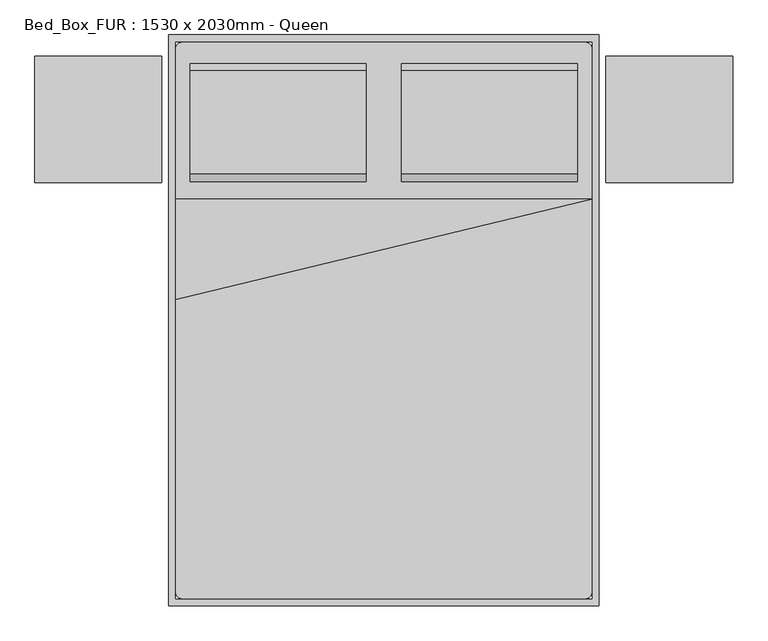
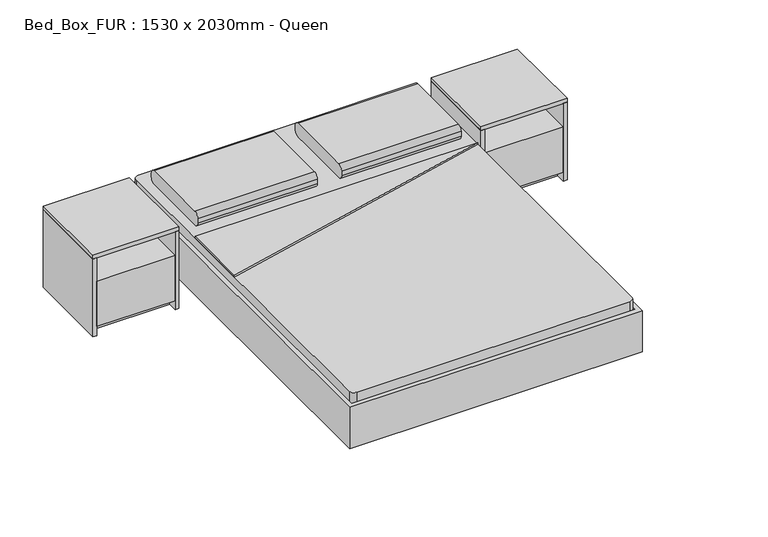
"""IFC4 building model written with IfcOpenShell, lengths in millimetres: furniture geometry, Bed_Box_FUR : 1530 x 2030mm - Queen."""

from ifc_helpers import new_model, si_unit, point, frame, frame_2d, origin, origin_with_axes, place, context, project, spatial, polyline, circle_curve, trimmed, segment, composite_curve, outline, extrude, source, transform, mapped, element, save
from ifc_brep_helpers import plane_surface, cylinder_surface, revolved_surface, advanced_brep


def bed_box_fur_1530_x_2030mm_queen_487b53cd(model_context):
    return source(origin(), model_context, "Body", "SolidModel", [
        extrude(outline(polyline([(1149.152459, 700.1704918), (1559.152459, 700.1704918), (1559.152459, 305.1704918), (1149.152459, 305.1704918), (1149.152459, 700.1704918)])), origin_with_axes(), (0.0, 0.0, 1.0), 50.0),
        extrude(outline(polyline([(1149.152459, 700.1704918), (1559.152459, 700.1704918), (1559.152459, 255.1704918), (1149.152459, 255.1704918), (1149.152459, 700.1704918)])), frame((0.0, 0.0, 50.0), z_axis=(0.0, 0.0, 1.0), x_axis=(1.0, 0.0, 0.0)), (0.0, 0.0, 1.0), 250.0),
        extrude(outline(polyline([(1149.152459, 700.1704918), (1149.152459, 705.1704918), (1559.152459, 705.1704918), (1559.152459, 700.1704918), (1149.152459, 700.1704918)])), origin_with_axes(), (0.0, 0.0, 1.0), 430.0),
        extrude(outline(polyline([(1129.152459, 705.1704918), (1149.152459, 705.1704918), (1149.152459, 255.1704918), (1129.152459, 255.1704918), (1129.152459, 705.1704918)])), origin_with_axes(), (0.0, 0.0, 1.0), 430.0),
        extrude(outline(polyline([(1559.152459, 705.1704918), (1579.152459, 705.1704918), (1579.152459, 255.1704918), (1559.152459, 255.1704918), (1559.152459, 705.1704918)])), origin_with_axes(), (0.0, 0.0, 1.0), 430.0),
        extrude(outline(polyline([(1129.152459, 705.1704918), (1579.152459, 705.1704918), (1579.152459, 255.1704918), (1129.152459, 255.1704918), (1129.152459, 705.1704918)])), frame((0.0, 0.0, 430.0), z_axis=(0.0, 0.0, 1.0), x_axis=(1.0, 0.0, 0.0)), (0.0, 0.0, 1.0), 20.0),
        extrude(outline(polyline([(-470.847541, 700.1704918), (-470.847541, 305.1704918), (-880.847541, 305.1704918), (-880.847541, 700.1704918), (-470.847541, 700.1704918)])), origin_with_axes(), (0.0, 0.0, 1.0), 50.0),
        extrude(outline(polyline([(-470.847541, 700.1704918), (-470.847541, 255.1704918), (-880.847541, 255.1704918), (-880.847541, 700.1704918), (-470.847541, 700.1704918)])), frame((0.0, 0.0, 50.0), z_axis=(0.0, 0.0, 1.0), x_axis=(1.0, 0.0, 0.0)), (0.0, 0.0, 1.0), 250.0),
        extrude(outline(polyline([(-470.847541, 700.1704918), (-880.847541, 700.1704918), (-880.847541, 705.1704918), (-470.847541, 705.1704918), (-470.847541, 700.1704918)])), origin_with_axes(), (0.0, 0.0, 1.0), 430.0),
        extrude(outline(polyline([(-450.847541, 705.1704918), (-450.847541, 255.1704918), (-470.847541, 255.1704918), (-470.847541, 705.1704918), (-450.847541, 705.1704918)])), origin_with_axes(), (0.0, 0.0, 1.0), 430.0),
        extrude(outline(polyline([(-880.847541, 705.1704918), (-880.847541, 255.1704918), (-900.847541, 255.1704918), (-900.847541, 705.1704918), (-880.847541, 705.1704918)])), origin_with_axes(), (0.0, 0.0, 1.0), 430.0),
        extrude(outline(polyline([(-450.847541, 705.1704918), (-450.847541, 255.1704918), (-900.847541, 255.1704918), (-900.847541, 705.1704918), (-450.847541, 705.1704918)])), frame((0.0, 0.0, 430.0), z_axis=(0.0, 0.0, 1.0), x_axis=(1.0, 0.0, 0.0)), (0.0, 0.0, 1.0), 20.0),
        extrude(outline(composite_curve([segment(polyline([(653.5704918, 406.4), (285.2704918, 406.4)]), True, "CONTINUOUS"), segment(trimmed(circle_curve(frame_2d((285.2704918, 431.8)), 25.4), [point((285.2704918, 406.4))], [point((259.8704918, 431.8))], False, "CARTESIAN"), True, "CONTINUOUS"), segment(polyline([(259.8704918, 431.8), (259.8704918, 457.2)]), True, "CONTINUOUS"), segment(trimmed(circle_curve(frame_2d((285.2704918, 457.2)), 25.4), [point((259.8704918, 457.2))], [point((285.2704918, 482.6))], False, "CARTESIAN"), True, "CONTINUOUS"), segment(polyline([(285.2704918, 482.6), (653.5704918, 482.6)]), True, "CONTINUOUS"), segment(trimmed(circle_curve(frame_2d((653.5704918, 457.2)), 25.4), [point((653.5704918, 482.6))], [point((678.9704918, 457.2))], False, "CARTESIAN"), True, "CONTINUOUS"), segment(polyline([(678.9704918, 457.2), (678.9704918, 431.8)]), True, "CONTINUOUS"), segment(trimmed(circle_curve(frame_2d((653.5704918, 431.8)), 25.4), [point((678.9704918, 431.8))], [point((653.5704918, 406.4))], False, "CARTESIAN"), True, "CONTINUOUS")], self_intersect=False)), frame((402.652459, 0.0, 0.0), z_axis=(1.0, 0.0, 0.0), x_axis=(0.0, 1.0, 0.0)), (0.0, 0.0, 1.0), 625.3),
        extrude(outline(composite_curve([segment(polyline([(653.5704918, 406.4), (285.2704918, 406.4)]), True, "CONTINUOUS"), segment(trimmed(circle_curve(frame_2d((285.2704918, 431.8)), 25.4), [point((285.2704918, 406.4))], [point((259.8704918, 431.8))], False, "CARTESIAN"), True, "CONTINUOUS"), segment(polyline([(259.8704918, 431.8), (259.8704918, 457.2)]), True, "CONTINUOUS"), segment(trimmed(circle_curve(frame_2d((285.2704918, 457.2)), 25.4), [point((259.8704918, 457.2))], [point((285.2704918, 482.6))], False, "CARTESIAN"), True, "CONTINUOUS"), segment(polyline([(285.2704918, 482.6), (653.5704918, 482.6)]), True, "CONTINUOUS"), segment(trimmed(circle_curve(frame_2d((653.5704918, 457.2)), 25.4), [point((653.5704918, 482.6))], [point((678.9704918, 457.2))], False, "CARTESIAN"), True, "CONTINUOUS"), segment(polyline([(678.9704918, 457.2), (678.9704918, 431.8)]), True, "CONTINUOUS"), segment(trimmed(circle_curve(frame_2d((653.5704918, 431.8)), 25.4), [point((678.9704918, 431.8))], [point((653.5704918, 406.4))], False, "CARTESIAN"), True, "CONTINUOUS")], self_intersect=False)), frame((-349.647541, 0.0, 0.0), z_axis=(1.0, 0.0, 0.0), x_axis=(0.0, 1.0, 0.0)), (0.0, 0.0, 1.0), 625.3),
        advanced_brep(
        [(-400.1231784, 526.5704918, 177.8), (-400.1231784, 450.3704918, 177.8), (-400.1231784, 450.3704918, 196.85), (-400.1231784, 526.5704918, 196.85), (-349.3231784, 526.5704918, 177.8), (-349.3231784, 450.3704918, 177.8), (-337.1869899, 450.3704918, 196.85), (-337.1869899, 526.5704918, 196.85), (-273.2523099, 526.5704918, 14.6654962), (-273.2523099, 450.3704918, 14.6654962), (-255.9871466, 450.3704918, 22.716374), (-255.9871466, 526.5704918, 22.716374), (-250.2320921, 450.3704918, 0.0), (-250.2320921, 526.5704918, 0.0), (-250.2320921, 450.3704918, 19.05), (-250.2320921, 526.5704918, 19.05), (-171.6195862, 526.5704918, 0.0), (-171.6195862, 450.3704918, 0.0), (-171.6195862, 450.3704918, 19.05), (-171.6195862, 526.5704918, 19.05), (-158.9195862, 450.3704918, 3.4029547), (-158.9195862, 526.5704918, 3.4029547), (-168.4445862, 450.3704918, 19.9007387), (-168.4445862, 526.5704918, 19.9007387), (-98.822541, 526.5704918, 38.1), (-98.822541, 450.3704918, 38.1), (-103.9269731, 450.3704918, 57.15), (-103.9269731, 526.5704918, 57.15), (777.4518216, 526.5704918, 38.1), (777.4518216, 450.3704918, 38.1), (782.5562537, 450.3704918, 57.15), (782.5562537, 526.5704918, 57.15), (837.5488669, 526.5704918, 3.4029547), (837.5488669, 450.3704918, 3.4029547), (847.0738669, 450.3704918, 19.9007387), (847.0738669, 526.5704918, 19.9007387), (850.2488669, 450.3704918, 0.0), (850.2488669, 526.5704918, 0.0), (850.2488669, 450.3704918, 19.05), (850.2488669, 526.5704918, 19.05), (928.8613728, 526.5704918, 0.0), (928.8613728, 450.3704918, 0.0), (928.8613728, 450.3704918, 19.05), (928.8613728, 526.5704918, 19.05), (951.8815906, 450.3704918, 14.6654962), (951.8815906, 526.5704918, 14.6654962), (934.6164272, 450.3704918, 22.716374), (934.6164272, 526.5704918, 22.716374), (1027.952459, 526.5704918, 177.8), (1027.952459, 450.3704918, 177.8), (1015.8162705, 450.3704918, 196.85), (1015.8162705, 526.5704918, 196.85), (1078.752459, 526.5704918, 177.8), (1078.752459, 526.5704918, 196.85), (1078.752459, 450.3704918, 196.85), (1078.752459, 450.3704918, 177.8)],
        [
            (0, 1),
            (1, 2),
            (2, 3),
            (3, 0),
            (0, 4),
            (4, 5),
            (5, 1),
            (5, 6),
            (6, 2),
            (6, 7),
            (7, 3),
            (7, 4),
            (4, 8),
            (8, 9),
            (9, 5),
            (9, 10),
            (10, 6),
            (10, 11),
            (11, 7),
            (11, 8),
            (12, 9, circle_curve(frame((-250.2320921, 450.3704918, 25.4), z_axis=(0.0, 1.0, 0.0), x_axis=(-0.906307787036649, 0.0, -0.4226182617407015)), 25.4)),
            (8, 13, circle_curve(frame((-250.2320921, 526.5704918, 25.4), z_axis=(0.0, -1.0, 0.0), x_axis=(-0.906307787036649, 0.0, -0.4226182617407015)), 25.4)),
            (13, 12),
            (14, 10, circle_curve(frame((-250.2320921, 450.3704918, 25.4), z_axis=(0.0, 1.0, 0.0), x_axis=(-0.906307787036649, 0.0, -0.4226182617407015)), 6.35)),
            (12, 14),
            (15, 11, circle_curve(frame((-250.2320921, 526.5704918, 25.4), z_axis=(0.0, 1.0, 0.0), x_axis=(-0.906307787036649, 0.0, -0.4226182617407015)), 6.35)),
            (14, 15),
            (15, 13),
            (13, 16),
            (16, 17),
            (17, 12),
            (17, 18),
            (18, 14),
            (18, 19),
            (19, 15),
            (19, 16),
            (20, 17, circle_curve(frame((-171.6195862, 450.3704918, 25.4), z_axis=(0.0, 1.0, 0.0), x_axis=(0.0, 0.0, -1.0)), 25.4)),
            (16, 21, circle_curve(frame((-171.6195862, 526.5704918, 25.4), z_axis=(0.0, -1.0, 0.0), x_axis=(0.0, 0.0, -1.0)), 25.4)),
            (21, 20),
            (22, 18, circle_curve(frame((-171.6195862, 450.3704918, 25.4), z_axis=(0.0, 1.0, 0.0), x_axis=(0.0, 0.0, -1.0)), 6.35)),
            (20, 22),
            (23, 19, circle_curve(frame((-171.6195862, 526.5704918, 25.4), z_axis=(0.0, 1.0, 0.0), x_axis=(0.0, 0.0, -1.0)), 6.35)),
            (22, 23),
            (23, 21),
            (21, 24),
            (24, 25),
            (25, 20),
            (25, 26),
            (26, 22),
            (26, 27),
            (27, 23),
            (27, 24),
            (24, 28),
            (28, 29),
            (29, 25),
            (29, 30),
            (30, 26),
            (30, 31),
            (31, 27),
            (31, 28),
            (28, 32),
            (32, 33),
            (33, 29),
            (33, 34),
            (34, 30),
            (34, 35),
            (35, 31),
            (35, 32),
            (36, 33, circle_curve(frame((850.2488669, 450.3704918, 25.4), z_axis=(0.0, 1.0, 0.0), x_axis=(-0.5000000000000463, 0.0, -0.8660254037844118)), 25.4)),
            (32, 37, circle_curve(frame((850.2488669, 526.5704918, 25.4), z_axis=(0.0, -1.0, 0.0), x_axis=(-0.5000000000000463, 0.0, -0.8660254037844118)), 25.4)),
            (37, 36),
            (38, 34, circle_curve(frame((850.2488669, 450.3704918, 25.4), z_axis=(0.0, 1.0, 0.0), x_axis=(-0.5000000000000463, 0.0, -0.8660254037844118)), 6.35)),
            (36, 38),
            (39, 35, circle_curve(frame((850.2488669, 526.5704918, 25.4), z_axis=(0.0, 1.0, 0.0), x_axis=(-0.5000000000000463, 0.0, -0.8660254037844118)), 6.35)),
            (38, 39),
            (39, 37),
            (37, 40),
            (40, 41),
            (41, 36),
            (41, 42),
            (42, 38),
            (42, 43),
            (43, 39),
            (43, 40),
            (44, 41, circle_curve(frame((928.8613728, 450.3704918, 25.4), z_axis=(0.0, 1.0, 0.0), x_axis=(0.0, 0.0, -1.0)), 25.4)),
            (40, 45, circle_curve(frame((928.8613728, 526.5704918, 25.4), z_axis=(0.0, -1.0, 0.0), x_axis=(0.0, 0.0, -1.0)), 25.4)),
            (45, 44),
            (46, 42, circle_curve(frame((928.8613728, 450.3704918, 25.4), z_axis=(0.0, 1.0, 0.0), x_axis=(0.0, 0.0, -1.0)), 6.35)),
            (44, 46),
            (47, 43, circle_curve(frame((928.8613728, 526.5704918, 25.4), z_axis=(0.0, 1.0, 0.0), x_axis=(0.0, 0.0, -1.0)), 6.35)),
            (46, 47),
            (47, 45),
            (45, 48),
            (48, 49),
            (49, 44),
            (49, 50),
            (50, 46),
            (50, 51),
            (51, 47),
            (51, 48),
            (52, 53),
            (53, 54),
            (54, 55),
            (55, 52),
            (48, 52),
            (55, 49),
            (54, 50),
            (53, 51),
        ],
        [
            plane_surface(frame((-400.1231784, 780.5704918, -152.9490627), z_axis=(-1.0, 0.0, 0.0), x_axis=(0.0, 1.0, 0.0))),
            plane_surface(frame((-400.1231784, 526.5704918, 177.8), z_axis=(0.0, 0.0, -1.0), x_axis=(1.0, 0.0, 0.0))),
            plane_surface(frame((-400.1231784, 450.3704918, 177.8), z_axis=(0.0, -1.0, 0.0), x_axis=(1.0, 0.0, 0.0))),
            plane_surface(frame((-400.1231784, 450.3704918, 196.85), z_axis=(0.0, 0.0, 1.0), x_axis=(1.0, 0.0, 0.0))),
            plane_surface(frame((-400.1231784, 526.5704918, 196.85), z_axis=(0.0, 1.0, 0.0), x_axis=(1.0, 0.0, 0.0))),
            plane_surface(frame((-349.3231784, 526.5704918, 177.8), z_axis=(-0.9063077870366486, 0.0, -0.42261826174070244), x_axis=(0.42261826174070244, 0.0, -0.9063077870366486))),
            plane_surface(frame((-349.3231784, 450.3704918, 177.8), z_axis=(0.0, -1.0000000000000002, 0.0), x_axis=(0.4226182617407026, 0.0, -0.9063077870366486))),
            plane_surface(frame((-337.1869899, 450.3704918, 196.85), z_axis=(0.9063077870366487, 0.0, 0.4226182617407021), x_axis=(0.4226182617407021, 0.0, -0.9063077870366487))),
            plane_surface(frame((-337.1869899, 526.5704918, 196.85), z_axis=(0.0, 1.0000000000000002, 0.0), x_axis=(0.4226182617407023, 0.0, -0.9063077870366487))),
            cylinder_surface(frame((-250.2320921, 780.5704918, 25.4), z_axis=(0.0, -1.0, 0.0), x_axis=(-0.906307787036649, 0.0, -0.4226182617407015)), 25.4),
            plane_surface(frame((-250.2320921, 450.3704918, 25.4), z_axis=(0.0, -1.0, 0.0), x_axis=(-0.906307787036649, 0.0, -0.4226182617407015))),
            revolved_surface(polyline([(-255.9871465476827, 450.3704918, 22.716374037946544), (-255.9871465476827, 526.5704918, 22.716374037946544)]), (-250.2320921, 780.5704918, 25.4), (0.0, -1.0, 0.0)),
            plane_surface(frame((-250.2320921, 526.5704918, 25.4), z_axis=(0.0, 1.0, 0.0), x_axis=(-0.906307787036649, 0.0, -0.4226182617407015))),
            plane_surface(frame((-250.2320921, 526.5704918, 0.0), z_axis=(0.0, 0.0, -1.0), x_axis=(1.0, 0.0, 0.0))),
            plane_surface(frame((-250.2320921, 450.3704918, 0.0), z_axis=(0.0, -1.0, 0.0), x_axis=(1.0, 0.0, 0.0))),
            plane_surface(frame((-250.2320921, 450.3704918, 19.05), z_axis=(0.0, 0.0, 1.0), x_axis=(1.0, 0.0, 0.0))),
            plane_surface(frame((-250.2320921, 526.5704918, 19.05), z_axis=(0.0, 1.0, 0.0), x_axis=(1.0, 0.0, 0.0))),
            cylinder_surface(frame((-171.6195862, 780.5704918, 25.4), z_axis=(0.0, -1.0, 0.0), x_axis=(0.0, 0.0, -1.0)), 25.4),
            plane_surface(frame((-171.6195862, 450.3704918, 25.4), z_axis=(0.0, -1.0, 0.0), x_axis=(0.0, 0.0, -1.0))),
            revolved_surface(polyline([(-171.6195862, 450.3704918, 19.049999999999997), (-171.6195862, 526.5704918, 19.049999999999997)]), (-171.6195862, 780.5704918, 25.4), (0.0, -1.0, 0.0)),
            plane_surface(frame((-171.6195862, 526.5704918, 25.4), z_axis=(0.0, 1.0, 0.0), x_axis=(0.0, 0.0, -1.0))),
            plane_surface(frame((-158.9195862, 526.5704918, 3.4029547), z_axis=(0.49999999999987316, 0.0, -0.866025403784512), x_axis=(0.866025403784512, 0.0, 0.49999999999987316))),
            plane_surface(frame((-158.9195862, 450.3704918, 3.4029547), z_axis=(0.0, -1.0, 0.0), x_axis=(0.8660254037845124, 0.0, 0.49999999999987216))),
            plane_surface(frame((-168.4445862, 450.3704918, 19.9007387), z_axis=(-0.4999999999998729, 0.0, 0.8660254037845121), x_axis=(0.8660254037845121, 0.0, 0.4999999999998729))),
            plane_surface(frame((-168.4445862, 526.5704918, 19.9007387), z_axis=(0.0, 1.0, 0.0), x_axis=(0.8660254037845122, 0.0, 0.49999999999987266))),
            plane_surface(frame((-98.822541, 526.5704918, 38.1), z_axis=(0.0, 0.0, -1.0), x_axis=(1.0, 0.0, 0.0))),
            plane_surface(frame((-98.822541, 450.3704918, 38.1), z_axis=(0.0, -1.0, 0.0), x_axis=(1.0, 0.0, 0.0))),
            plane_surface(frame((-103.9269731, 450.3704918, 57.15), z_axis=(0.0, 0.0, 1.0), x_axis=(1.0, 0.0, 0.0))),
            plane_surface(frame((-103.9269731, 526.5704918, 57.15), z_axis=(0.0, 1.0, 0.0), x_axis=(1.0, 0.0, 0.0))),
            plane_surface(frame((777.4518216, 526.5704918, 38.1), z_axis=(-0.5000000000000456, 0.0, -0.8660254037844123), x_axis=(0.8660254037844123, 0.0, -0.5000000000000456))),
            plane_surface(frame((777.4518216, 450.3704918, 38.1), z_axis=(0.0, -1.0, 0.0), x_axis=(0.8660254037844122, 0.0, -0.500000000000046))),
            plane_surface(frame((782.5562537, 450.3704918, 57.15), z_axis=(0.5000000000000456, 0.0, 0.8660254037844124), x_axis=(0.8660254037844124, 0.0, -0.5000000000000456))),
            plane_surface(frame((782.5562537, 526.5704918, 57.15), z_axis=(0.0, 1.0, 0.0), x_axis=(0.8660254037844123, 0.0, -0.5000000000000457))),
            cylinder_surface(frame((850.2488669, 780.5704918, 25.4), z_axis=(0.0, -1.0, 0.0), x_axis=(-0.5000000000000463, 0.0, -0.8660254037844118)), 25.4),
            plane_surface(frame((850.2488669, 450.3704918, 25.4), z_axis=(0.0, -1.0000000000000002, 0.0), x_axis=(-0.5000000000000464, 0.0, -0.866025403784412))),
            revolved_surface(polyline([(847.0738668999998, 450.3704918, 19.90073868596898), (847.0738668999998, 526.5704918, 19.90073868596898)]), (850.2488669, 780.5704918, 25.4), (0.0, -1.0, 0.0)),
            plane_surface(frame((850.2488669, 526.5704918, 25.4), z_axis=(0.0, 1.0000000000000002, 0.0), x_axis=(-0.5000000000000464, 0.0, -0.866025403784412))),
            plane_surface(frame((850.2488669, 526.5704918, 0.0), z_axis=(0.0, 0.0, -1.0), x_axis=(1.0, 0.0, 0.0))),
            plane_surface(frame((850.2488669, 450.3704918, 0.0), z_axis=(0.0, -1.0, 0.0), x_axis=(1.0, 0.0, 0.0))),
            plane_surface(frame((850.2488669, 450.3704918, 19.05), z_axis=(0.0, 0.0, 1.0), x_axis=(1.0, 0.0, 0.0))),
            plane_surface(frame((850.2488669, 526.5704918, 19.05), z_axis=(0.0, 1.0, 0.0), x_axis=(1.0, 0.0, 0.0))),
            cylinder_surface(frame((928.8613728, 780.5704918, 25.4), z_axis=(0.0, -1.0, 0.0), x_axis=(0.0, 0.0, -1.0)), 25.4),
            plane_surface(frame((928.8613728, 450.3704918, 25.4), z_axis=(0.0, -1.0, 0.0), x_axis=(0.0, 0.0, -1.0))),
            revolved_surface(polyline([(928.8613728, 450.3704918, 19.049999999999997), (928.8613728, 526.5704918, 19.049999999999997)]), (928.8613728, 780.5704918, 25.4), (0.0, -1.0, 0.0)),
            plane_surface(frame((928.8613728, 526.5704918, 25.4), z_axis=(0.0, 1.0, 0.0), x_axis=(0.0, 0.0, -1.0))),
            plane_surface(frame((951.8815906, 526.5704918, 14.6654962), z_axis=(0.9063077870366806, 0.0, -0.42261826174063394), x_axis=(0.42261826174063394, 0.0, 0.9063077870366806))),
            plane_surface(frame((951.8815906, 450.3704918, 14.6654962), z_axis=(0.0, -1.0, 0.0), x_axis=(0.42261826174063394, 0.0, 0.9063077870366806))),
            plane_surface(frame((934.6164272, 450.3704918, 22.716374), z_axis=(-0.9063077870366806, 0.0, 0.422618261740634), x_axis=(0.422618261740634, 0.0, 0.9063077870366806))),
            plane_surface(frame((934.6164272, 526.5704918, 22.716374), z_axis=(0.0, 1.0000000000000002, 0.0), x_axis=(0.42261826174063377, 0.0, 0.9063077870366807))),
            plane_surface(frame((1078.752459, 780.5704918, -152.9490627), z_axis=(1.0, 0.0, 0.0), x_axis=(0.0, 1.0, 0.0))),
            plane_surface(frame((1027.952459, 526.5704918, 177.8), z_axis=(0.0, 0.0, -1.0), x_axis=(1.0, 0.0, 0.0))),
            plane_surface(frame((1027.952459, 450.3704918, 177.8), z_axis=(0.0, -1.0, 0.0), x_axis=(1.0, 0.0, 0.0))),
            plane_surface(frame((1015.8162705, 450.3704918, 196.85), z_axis=(0.0, 0.0, 1.0), x_axis=(1.0, 0.0, 0.0))),
            plane_surface(frame((1015.8162705, 526.5704918, 196.85), z_axis=(0.0, 1.0, 0.0), x_axis=(1.0, 0.0, 0.0))),
        ],
        [
            (0, [[1, 2, 3, 4]]),
            (1, [[-1, 5, 6, 7]]),
            (2, [[-2, -7, 8, 9]]),
            (3, [[-3, -9, 10, 11]]),
            (4, [[-4, -11, 12, -5]]),
            (5, [[-6, 13, 14, 15]]),
            (6, [[-8, -15, 16, 17]]),
            (7, [[-10, -17, 18, 19]]),
            (8, [[-12, -19, 20, -13]]),
            (9, [[21, -14, 22, 23]]),
            (10, [[24, -16, -21, 25]]),
            (11, [[26, -18, -24, 27]]),
            (12, [[-22, -20, -26, 28]]),
            (13, [[-23, 29, 30, 31]]),
            (14, [[-25, -31, 32, 33]]),
            (15, [[-27, -33, 34, 35]]),
            (16, [[-28, -35, 36, -29]]),
            (17, [[37, -30, 38, 39]]),
            (18, [[40, -32, -37, 41]]),
            (19, [[42, -34, -40, 43]]),
            (20, [[-38, -36, -42, 44]]),
            (21, [[-39, 45, 46, 47]]),
            (22, [[-41, -47, 48, 49]]),
            (23, [[-43, -49, 50, 51]]),
            (24, [[-44, -51, 52, -45]]),
            (25, [[-46, 53, 54, 55]]),
            (26, [[-48, -55, 56, 57]]),
            (27, [[-50, -57, 58, 59]]),
            (28, [[-52, -59, 60, -53]]),
            (29, [[-54, 61, 62, 63]]),
            (30, [[-56, -63, 64, 65]]),
            (31, [[-58, -65, 66, 67]]),
            (32, [[-60, -67, 68, -61]]),
            (33, [[69, -62, 70, 71]]),
            (34, [[72, -64, -69, 73]]),
            (35, [[74, -66, -72, 75]]),
            (36, [[-70, -68, -74, 76]]),
            (37, [[-71, 77, 78, 79]]),
            (38, [[-73, -79, 80, 81]]),
            (39, [[-75, -81, 82, 83]]),
            (40, [[-76, -83, 84, -77]]),
            (41, [[85, -78, 86, 87]]),
            (42, [[88, -80, -85, 89]]),
            (43, [[90, -82, -88, 91]]),
            (44, [[-86, -84, -90, 92]]),
            (45, [[-87, 93, 94, 95]]),
            (46, [[-89, -95, 96, 97]]),
            (47, [[-91, -97, 98, 99]]),
            (48, [[-92, -99, 100, -93]]),
            (49, [[101, 102, 103, 104]]),
            (50, [[-94, 105, -104, 106]]),
            (51, [[-96, -106, -103, 107]]),
            (52, [[-98, -107, -102, 108]]),
            (53, [[-100, -108, -101, -105]]),
        ],
    ),
        extrude(outline(composite_curve([segment(polyline([(-375.047541, 755.1704918), (1053.352459, 755.1704918)]), True, "CONTINUOUS"), segment(trimmed(circle_curve(frame_2d((1053.352459, 729.7704918)), 25.4), [point((1053.352459, 755.1704918))], [point((1078.752459, 729.7704918))], False, "CARTESIAN"), True, "CONTINUOUS"), segment(polyline([(1078.752459, 729.7704918), (1078.752459, -1198.6295082)]), True, "CONTINUOUS"), segment(trimmed(circle_curve(frame_2d((1053.352459, -1198.6295082)), 25.4), [point((1078.752459, -1198.6295082))], [point((1053.352459, -1224.0295082))], False, "CARTESIAN"), True, "CONTINUOUS"), segment(polyline([(1053.352459, -1224.0295082), (-375.047541, -1224.0295082)]), True, "CONTINUOUS"), segment(trimmed(circle_curve(frame_2d((-375.047541, -1198.6295082)), 25.4), [point((-375.047541, -1224.0295082))], [point((-400.447541, -1198.6295082))], False, "CARTESIAN"), True, "CONTINUOUS"), segment(polyline([(-400.447541, -1198.6295082), (-400.447541, 729.7704918)]), True, "CONTINUOUS"), segment(trimmed(circle_curve(frame_2d((-375.047541, 729.7704918)), 25.4), [point((-400.447541, 729.7704918))], [point((-375.047541, 755.1704918))], False, "CARTESIAN"), True, "CONTINUOUS")], self_intersect=False)), frame((0.0, 0.0, 203.2), z_axis=(0.0, 0.0, 1.0), x_axis=(1.0, 0.0, 0.0)), (0.0, 0.0, 1.0), 203.2),
        advanced_brep(
        [(-400.447541, -944.6295082, 196.85), (-400.447541, -944.6295082, 177.8), (-400.447541, -1020.8295082, 177.8), (-400.447541, -1020.8295082, 196.85), (-337.5113525, -944.6295082, 196.85), (-349.647541, -944.6295082, 177.8), (-349.647541, -1020.8295082, 177.8), (-337.5113525, -1020.8295082, 196.85), (-256.3115092, -944.6295082, 22.716374), (-273.5766725, -944.6295082, 14.6654962), (-273.5766725, -1020.8295082, 14.6654962), (-256.3115092, -1020.8295082, 22.716374), (-250.5564547, -944.6295082, 0.0), (-250.5564547, -944.6295082, 19.05), (-250.5564547, -1020.8295082, 0.0), (-250.5564547, -1020.8295082, 19.05), (-171.9439489, -944.6295082, 19.05), (-171.9439489, -944.6295082, 0.0), (-171.9439489, -1020.8295082, 0.0), (-171.9439489, -1020.8295082, 19.05), (-159.2439489, -944.6295082, 3.4029547), (-168.7689489, -944.6295082, 19.9007387), (-159.2439489, -1020.8295082, 3.4029547), (-168.7689489, -1020.8295082, 19.9007387), (-104.2513357, -944.6295082, 57.15), (-99.1469036, -944.6295082, 38.1), (-99.1469036, -1020.8295082, 38.1), (-104.2513357, -1020.8295082, 57.15), (782.5562537, -944.6295082, 57.15), (777.4518216, -944.6295082, 38.1), (777.4518216, -1020.8295082, 38.1), (782.5562537, -1020.8295082, 57.15), (847.0738669, -944.6295082, 19.9007387), (837.5488669, -944.6295082, 3.4029547), (837.5488669, -1020.8295082, 3.4029547), (847.0738669, -1020.8295082, 19.9007387), (850.2488669, -944.6295082, 0.0), (850.2488669, -944.6295082, 19.05), (850.2488669, -1020.8295082, 0.0), (850.2488669, -1020.8295082, 19.05), (928.8613728, -944.6295082, 19.05), (928.8613728, -944.6295082, 0.0), (928.8613728, -1020.8295082, 0.0), (928.8613728, -1020.8295082, 19.05), (951.8815906, -944.6295082, 14.6654962), (934.6164272, -944.6295082, 22.716374), (951.8815906, -1020.8295082, 14.6654962), (934.6164272, -1020.8295082, 22.716374), (1015.8162705, -944.6295082, 196.85), (1027.952459, -944.6295082, 177.8), (1027.952459, -1020.8295082, 177.8), (1015.8162705, -1020.8295082, 196.85), (1078.752459, -944.6295082, 196.85), (1078.752459, -1020.8295082, 196.85), (1078.752459, -1020.8295082, 177.8), (1078.752459, -944.6295082, 177.8)],
        [
            (0, 1),
            (1, 2),
            (2, 3),
            (3, 0),
            (0, 4),
            (4, 5),
            (5, 1),
            (5, 6),
            (6, 2),
            (6, 7),
            (7, 3),
            (7, 4),
            (4, 8),
            (8, 9),
            (9, 5),
            (9, 10),
            (10, 6),
            (10, 11),
            (11, 7),
            (11, 8),
            (12, 9, circle_curve(frame((-250.5564547, -944.6295082, 25.4), z_axis=(0.0, 1.0, 0.0), x_axis=(-0.9063077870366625, 0.0, -0.4226182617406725)), 25.4)),
            (8, 13, circle_curve(frame((-250.5564547, -944.6295082, 25.4), z_axis=(0.0, -1.0, 0.0), x_axis=(-0.9063077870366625, 0.0, -0.4226182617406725)), 6.35)),
            (13, 12),
            (14, 10, circle_curve(frame((-250.5564547, -1020.8295082, 25.4), z_axis=(0.0, 1.0, 0.0), x_axis=(-0.9063077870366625, 0.0, -0.4226182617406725)), 25.4)),
            (12, 14),
            (15, 11, circle_curve(frame((-250.5564547, -1020.8295082, 25.4), z_axis=(0.0, 1.0, 0.0), x_axis=(-0.9063077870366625, 0.0, -0.4226182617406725)), 6.35)),
            (14, 15),
            (15, 13),
            (13, 16),
            (16, 17),
            (17, 12),
            (17, 18),
            (18, 14),
            (18, 19),
            (19, 15),
            (19, 16),
            (20, 17, circle_curve(frame((-171.9439489, -944.6295082, 25.4), z_axis=(0.0, 1.0, 0.0), x_axis=(0.0, 0.0, -1.0)), 25.4)),
            (16, 21, circle_curve(frame((-171.9439489, -944.6295082, 25.4), z_axis=(0.0, -1.0, 0.0), x_axis=(0.0, 0.0, -1.0)), 6.35)),
            (21, 20),
            (22, 18, circle_curve(frame((-171.9439489, -1020.8295082, 25.4), z_axis=(0.0, 1.0, 0.0), x_axis=(0.0, 0.0, -1.0)), 25.4)),
            (20, 22),
            (23, 19, circle_curve(frame((-171.9439489, -1020.8295082, 25.4), z_axis=(0.0, 1.0, 0.0), x_axis=(0.0, 0.0, -1.0)), 6.35)),
            (22, 23),
            (23, 21),
            (21, 24),
            (24, 25),
            (25, 20),
            (25, 26),
            (26, 22),
            (26, 27),
            (27, 23),
            (27, 24),
            (24, 28),
            (28, 29),
            (29, 25),
            (29, 30),
            (30, 26),
            (30, 31),
            (31, 27),
            (31, 28),
            (28, 32),
            (32, 33),
            (33, 29),
            (33, 34),
            (34, 30),
            (34, 35),
            (35, 31),
            (35, 32),
            (36, 33, circle_curve(frame((850.2488669, -944.6295082, 25.4), z_axis=(0.0, 1.0, 0.0), x_axis=(-0.5000000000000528, 0.0, -0.8660254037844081)), 25.4)),
            (32, 37, circle_curve(frame((850.2488669, -944.6295082, 25.4), z_axis=(0.0, -1.0, 0.0), x_axis=(-0.5000000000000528, 0.0, -0.8660254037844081)), 6.35)),
            (37, 36),
            (38, 34, circle_curve(frame((850.2488669, -1020.8295082, 25.4), z_axis=(0.0, 1.0, 0.0), x_axis=(-0.5000000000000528, 0.0, -0.8660254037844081)), 25.4)),
            (36, 38),
            (39, 35, circle_curve(frame((850.2488669, -1020.8295082, 25.4), z_axis=(0.0, 1.0, 0.0), x_axis=(-0.5000000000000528, 0.0, -0.8660254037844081)), 6.35)),
            (38, 39),
            (39, 37),
            (37, 40),
            (40, 41),
            (41, 36),
            (41, 42),
            (42, 38),
            (42, 43),
            (43, 39),
            (43, 40),
            (44, 41, circle_curve(frame((928.8613728, -944.6295082, 25.4), z_axis=(0.0, 1.0, 0.0), x_axis=(0.0, 0.0, -1.0)), 25.4)),
            (40, 45, circle_curve(frame((928.8613728, -944.6295082, 25.4), z_axis=(0.0, -1.0, 0.0), x_axis=(0.0, 0.0, -1.0)), 6.35)),
            (45, 44),
            (46, 42, circle_curve(frame((928.8613728, -1020.8295082, 25.4), z_axis=(0.0, 1.0, 0.0), x_axis=(0.0, 0.0, -1.0)), 25.4)),
            (44, 46),
            (47, 43, circle_curve(frame((928.8613728, -1020.8295082, 25.4), z_axis=(0.0, 1.0, 0.0), x_axis=(0.0, 0.0, -1.0)), 6.35)),
            (46, 47),
            (47, 45),
            (45, 48),
            (48, 49),
            (49, 44),
            (49, 50),
            (50, 46),
            (50, 51),
            (51, 47),
            (51, 48),
            (52, 53),
            (53, 54),
            (54, 55),
            (55, 52),
            (48, 52),
            (55, 49),
            (54, 50),
            (53, 51),
        ],
        [
            plane_surface(frame((-400.447541, -1249.4295082, -127.5947323), z_axis=(-1.0, 0.0, 0.0), x_axis=(0.0, 1.0, 0.0))),
            plane_surface(frame((-400.447541, -944.6295082, 196.85), z_axis=(0.0, 1.0, 0.0), x_axis=(1.0, 0.0, 0.0))),
            plane_surface(frame((-400.447541, -944.6295082, 177.8), z_axis=(0.0, 0.0, -1.0), x_axis=(1.0, 0.0, 0.0))),
            plane_surface(frame((-400.447541, -1020.8295082, 177.8), z_axis=(0.0, -1.0, 0.0), x_axis=(1.0, 0.0, 0.0))),
            plane_surface(frame((-400.447541, -1020.8295082, 196.85), z_axis=(0.0, 0.0, 1.0), x_axis=(1.0, 0.0, 0.0))),
            plane_surface(frame((-337.5113525, -944.6295082, 196.85), z_axis=(0.0, 1.0, 0.0), x_axis=(0.42261826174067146, 0.0, -0.906307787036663))),
            plane_surface(frame((-349.647541, -944.6295082, 177.8), z_axis=(-0.906307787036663, 0.0, -0.4226182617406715), x_axis=(0.4226182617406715, 0.0, -0.906307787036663))),
            plane_surface(frame((-349.647541, -1020.8295082, 177.8), z_axis=(0.0, -1.0, 0.0), x_axis=(0.4226182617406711, 0.0, -0.9063077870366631))),
            plane_surface(frame((-337.5113525, -1020.8295082, 196.85), z_axis=(0.906307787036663, 0.0, 0.4226182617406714), x_axis=(0.4226182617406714, 0.0, -0.906307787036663))),
            plane_surface(frame((-250.5564547, -944.6295082, 25.4), z_axis=(0.0, 1.0, 0.0), x_axis=(-0.9063077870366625, 0.0, -0.4226182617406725))),
            cylinder_surface(frame((-250.5564547, -1249.4295082, 25.4), z_axis=(0.0, -1.0, 0.0), x_axis=(-0.9063077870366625, 0.0, -0.4226182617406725)), 25.4),
            plane_surface(frame((-250.5564547, -1020.8295082, 25.4), z_axis=(0.0, -1.0, 0.0), x_axis=(-0.9063077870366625, 0.0, -0.4226182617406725))),
            revolved_surface(polyline([(-256.3115091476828, -1020.8295082, 22.71637403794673), (-256.3115091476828, -944.6295082, 22.71637403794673)]), (-250.5564547, -1249.4295082, 25.4), (0.0, -1.0, 0.0)),
            plane_surface(frame((-250.5564547, -944.6295082, 19.05), z_axis=(0.0, 1.0, 0.0), x_axis=(1.0, 0.0, 0.0))),
            plane_surface(frame((-250.5564547, -944.6295082, 0.0), z_axis=(0.0, 0.0, -1.0), x_axis=(1.0, 0.0, 0.0))),
            plane_surface(frame((-250.5564547, -1020.8295082, 0.0), z_axis=(0.0, -1.0, 0.0), x_axis=(1.0, 0.0, 0.0))),
            plane_surface(frame((-250.5564547, -1020.8295082, 19.05), z_axis=(0.0, 0.0, 1.0), x_axis=(1.0, 0.0, 0.0))),
            plane_surface(frame((-171.9439489, -944.6295082, 25.4), z_axis=(0.0, 1.0, 0.0), x_axis=(0.0, 0.0, -1.0))),
            cylinder_surface(frame((-171.9439489, -1249.4295082, 25.4), z_axis=(0.0, -1.0, 0.0), x_axis=(0.0, 0.0, -1.0)), 25.4),
            plane_surface(frame((-171.9439489, -1020.8295082, 25.4), z_axis=(0.0, -1.0, 0.0), x_axis=(0.0, 0.0, -1.0))),
            revolved_surface(polyline([(-171.9439489, -1020.8295082, 19.049999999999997), (-171.9439489, -944.6295082, 19.049999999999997)]), (-171.9439489, -1249.4295082, 25.4), (0.0, -1.0, 0.0)),
            plane_surface(frame((-168.7689489, -944.6295082, 19.9007387), z_axis=(0.0, 1.0, 0.0), x_axis=(0.8660254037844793, 0.0, 0.4999999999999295))),
            plane_surface(frame((-159.2439489, -944.6295082, 3.4029547), z_axis=(0.4999999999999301, 0.0, -0.8660254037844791), x_axis=(0.8660254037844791, 0.0, 0.4999999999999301))),
            plane_surface(frame((-159.2439489, -1020.8295082, 3.4029547), z_axis=(0.0, -1.0, 0.0), x_axis=(0.8660254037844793, 0.0, 0.49999999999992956))),
            plane_surface(frame((-168.7689489, -1020.8295082, 19.9007387), z_axis=(-0.4999999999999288, 0.0, 0.8660254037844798), x_axis=(0.8660254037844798, 0.0, 0.4999999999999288))),
            plane_surface(frame((-104.2513357, -944.6295082, 57.15), z_axis=(0.0, 1.0, 0.0), x_axis=(1.0, 0.0, 0.0))),
            plane_surface(frame((-99.1469036, -944.6295082, 38.1), z_axis=(0.0, 0.0, -1.0), x_axis=(1.0, 0.0, 0.0))),
            plane_surface(frame((-99.1469036, -1020.8295082, 38.1), z_axis=(0.0, -1.0, 0.0), x_axis=(1.0, 0.0, 0.0))),
            plane_surface(frame((-104.2513357, -1020.8295082, 57.15), z_axis=(0.0, 0.0, 1.0), x_axis=(1.0, 0.0, 0.0))),
            plane_surface(frame((782.5562537, -944.6295082, 57.15), z_axis=(0.0, 1.0000000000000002, 0.0), x_axis=(0.8660254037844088, 0.0, -0.5000000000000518))),
            plane_surface(frame((777.4518216, -944.6295082, 38.1), z_axis=(-0.5000000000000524, 0.0, -0.8660254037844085), x_axis=(0.8660254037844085, 0.0, -0.5000000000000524))),
            plane_surface(frame((777.4518216, -1020.8295082, 38.1), z_axis=(0.0, -1.0, 0.0), x_axis=(0.8660254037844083, 0.0, -0.5000000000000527))),
            plane_surface(frame((782.5562537, -1020.8295082, 57.15), z_axis=(0.5000000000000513, 0.0, 0.8660254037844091), x_axis=(0.8660254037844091, 0.0, -0.5000000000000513))),
            plane_surface(frame((850.2488669, -944.6295082, 25.4), z_axis=(0.0, 1.0000000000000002, 0.0), x_axis=(-0.500000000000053, 0.0, -0.8660254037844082))),
            cylinder_surface(frame((850.2488669, -1249.4295082, 25.4), z_axis=(0.0, -1.0, 0.0), x_axis=(-0.5000000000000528, 0.0, -0.8660254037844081)), 25.4),
            plane_surface(frame((850.2488669, -1020.8295082, 25.4), z_axis=(0.0, -1.0000000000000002, 0.0), x_axis=(-0.500000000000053, 0.0, -0.8660254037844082))),
            revolved_surface(polyline([(847.0738668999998, -1020.8295082, 19.900738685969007), (847.0738668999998, -944.6295082, 19.900738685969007)]), (850.2488669, -1249.4295082, 25.4), (0.0, -1.0, 0.0)),
            plane_surface(frame((850.2488669, -944.6295082, 19.05), z_axis=(0.0, 1.0, 0.0), x_axis=(1.0, 0.0, 0.0))),
            plane_surface(frame((850.2488669, -944.6295082, 0.0), z_axis=(0.0, 0.0, -1.0), x_axis=(1.0, 0.0, 0.0))),
            plane_surface(frame((850.2488669, -1020.8295082, 0.0), z_axis=(0.0, -1.0, 0.0), x_axis=(1.0, 0.0, 0.0))),
            plane_surface(frame((850.2488669, -1020.8295082, 19.05), z_axis=(0.0, 0.0, 1.0), x_axis=(1.0, 0.0, 0.0))),
            plane_surface(frame((928.8613728, -944.6295082, 25.4), z_axis=(0.0, 1.0, 0.0), x_axis=(0.0, 0.0, -1.0))),
            cylinder_surface(frame((928.8613728, -1249.4295082, 25.4), z_axis=(0.0, -1.0, 0.0), x_axis=(0.0, 0.0, -1.0)), 25.4),
            plane_surface(frame((928.8613728, -1020.8295082, 25.4), z_axis=(0.0, -1.0, 0.0), x_axis=(0.0, 0.0, -1.0))),
            revolved_surface(polyline([(928.8613728, -1020.8295082, 19.049999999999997), (928.8613728, -944.6295082, 19.049999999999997)]), (928.8613728, -1249.4295082, 25.4), (0.0, -1.0, 0.0)),
            plane_surface(frame((934.6164272, -944.6295082, 22.716374), z_axis=(0.0, 1.0, 0.0), x_axis=(0.4226182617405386, 0.0, 0.906307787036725))),
            plane_surface(frame((951.8815906, -944.6295082, 14.6654962), z_axis=(0.906307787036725, 0.0, -0.4226182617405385), x_axis=(0.4226182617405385, 0.0, 0.906307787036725))),
            plane_surface(frame((951.8815906, -1020.8295082, 14.6654962), z_axis=(0.0, -1.0000000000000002, 0.0), x_axis=(0.42261826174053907, 0.0, 0.9063077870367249))),
            plane_surface(frame((934.6164272, -1020.8295082, 22.716374), z_axis=(-0.9063077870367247, 0.0, 0.4226182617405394), x_axis=(0.4226182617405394, 0.0, 0.9063077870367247))),
            plane_surface(frame((1078.752459, -1249.4295082, -127.5947323), z_axis=(1.0, 0.0, 0.0), x_axis=(0.0, 1.0, 0.0))),
            plane_surface(frame((1015.8162705, -944.6295082, 196.85), z_axis=(0.0, 1.0, 0.0), x_axis=(1.0, 0.0, 0.0))),
            plane_surface(frame((1027.952459, -944.6295082, 177.8), z_axis=(0.0, 0.0, -1.0), x_axis=(1.0, 0.0, 0.0))),
            plane_surface(frame((1027.952459, -1020.8295082, 177.8), z_axis=(0.0, -1.0, 0.0), x_axis=(1.0, 0.0, 0.0))),
            plane_surface(frame((1015.8162705, -1020.8295082, 196.85), z_axis=(0.0, 0.0, 1.0), x_axis=(1.0, 0.0, 0.0))),
        ],
        [
            (0, [[1, 2, 3, 4]]),
            (1, [[-1, 5, 6, 7]]),
            (2, [[-2, -7, 8, 9]]),
            (3, [[-3, -9, 10, 11]]),
            (4, [[-4, -11, 12, -5]]),
            (5, [[-6, 13, 14, 15]]),
            (6, [[-8, -15, 16, 17]]),
            (7, [[-10, -17, 18, 19]]),
            (8, [[-12, -19, 20, -13]]),
            (9, [[21, -14, 22, 23]]),
            (10, [[24, -16, -21, 25]]),
            (11, [[26, -18, -24, 27]]),
            (12, [[-22, -20, -26, 28]]),
            (13, [[-23, 29, 30, 31]]),
            (14, [[-25, -31, 32, 33]]),
            (15, [[-27, -33, 34, 35]]),
            (16, [[-28, -35, 36, -29]]),
            (17, [[37, -30, 38, 39]]),
            (18, [[40, -32, -37, 41]]),
            (19, [[42, -34, -40, 43]]),
            (20, [[-38, -36, -42, 44]]),
            (21, [[-39, 45, 46, 47]]),
            (22, [[-41, -47, 48, 49]]),
            (23, [[-43, -49, 50, 51]]),
            (24, [[-44, -51, 52, -45]]),
            (25, [[-46, 53, 54, 55]]),
            (26, [[-48, -55, 56, 57]]),
            (27, [[-50, -57, 58, 59]]),
            (28, [[-52, -59, 60, -53]]),
            (29, [[-54, 61, 62, 63]]),
            (30, [[-56, -63, 64, 65]]),
            (31, [[-58, -65, 66, 67]]),
            (32, [[-60, -67, 68, -61]]),
            (33, [[69, -62, 70, 71]]),
            (34, [[72, -64, -69, 73]]),
            (35, [[74, -66, -72, 75]]),
            (36, [[-70, -68, -74, 76]]),
            (37, [[-71, 77, 78, 79]]),
            (38, [[-73, -79, 80, 81]]),
            (39, [[-75, -81, 82, 83]]),
            (40, [[-76, -83, 84, -77]]),
            (41, [[85, -78, 86, 87]]),
            (42, [[88, -80, -85, 89]]),
            (43, [[90, -82, -88, 91]]),
            (44, [[-86, -84, -90, 92]]),
            (45, [[-87, 93, 94, 95]]),
            (46, [[-89, -95, 96, 97]]),
            (47, [[-91, -97, 98, 99]]),
            (48, [[-92, -99, 100, -93]]),
            (49, [[101, 102, 103, 104]]),
            (50, [[-94, 105, -104, 106]]),
            (51, [[-96, -106, -103, 107]]),
            (52, [[-98, -107, -102, 108]]),
            (53, [[-100, -108, -101, -105]]),
        ],
    ),
        extrude(outline(polyline([(1104.152459, 780.5704918), (1104.152459, -1249.4295082), (-425.847541, -1249.4295082), (-425.847541, 780.5704918), (1104.152459, 780.5704918)]), holes=[polyline([(1078.752459, 755.1704918), (-400.447541, 755.1704918), (-400.447541, -1224.0295082), (1078.752459, -1224.0295082), (1078.752459, 755.1704918)])]), frame((0.0, 0.0, 127.0), z_axis=(0.0, 0.0, 1.0), x_axis=(1.0, 0.0, 0.0)), (0.0, 0.0, 1.0), 228.6),
        extrude(outline(polyline([(1078.752459, 195.9503534), (-400.447541, -160.5646882), (-400.447541, 195.9503534), (1078.752459, 195.9503534)])), frame((0.0, 0.0, 406.4), z_axis=(0.0, 0.0, 1.0), x_axis=(1.0, 0.0, 0.0)), (0.0, 0.0, 1.0), 10.0),
    ])


if __name__ == "__main__":
    model = new_model("IFC4")
    model_context = context("Model", 3, world=origin())
    ifc_project = project(units=[si_unit("LENGTHUNIT", "METRE", prefix="MILLI")], contexts=[model_context])
    site = spatial("IfcSite", under=ifc_project)
    building = spatial("IfcBuilding", under=site)
    placement = place(None, origin())
    bed_box_fur_1530_x_2030mm_queen_shape = bed_box_fur_1530_x_2030mm_queen_487b53cd(model_context)
    element("IfcFurniture", 1, ObjectType="Bed_Box_FUR : 1530 x 2030mm - Queen", at=placement, inside=building, context=model_context, shape_type="MappedRepresentation", body=[
        mapped(bed_box_fur_1530_x_2030mm_queen_shape, transform((0.0, 0.0, 0.0), x_axis=(1.0, 0.0, 0.0), y_axis=(0.0, 1.0, 0.0), z_axis=(0.0, 0.0, 1.0))),
    ])
    save(model, "model.ifc")
